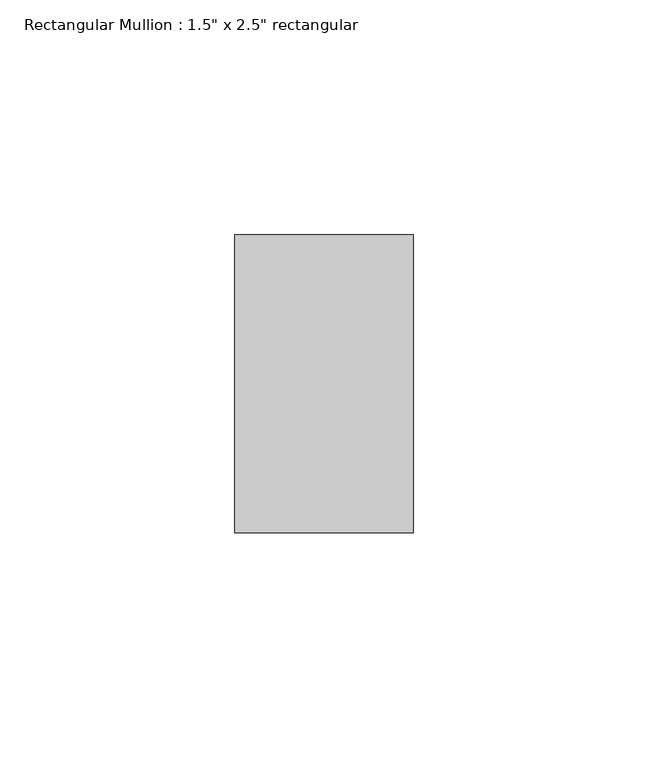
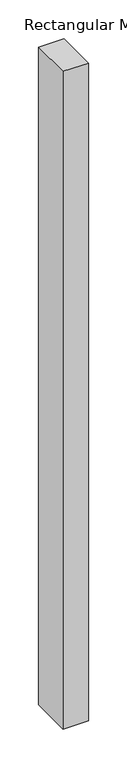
"""IFC4 building model written with IfcOpenShell, lengths in millimetres: member geometry."""

from ifc_helpers import new_model, si_unit, frame, origin, place, context, project, spatial, polyline, outline, extrude, source, transform, mapped, element, save


def member_c7dc9f29(model_context):
    return source(origin(), model_context, "Body", "SweptSolid", [
        extrude(outline(polyline([(0.0, 31.75), (0.0, -31.75), (-38.1, -31.75), (-38.1, 31.75), (0.0, 31.75)])), frame((0.0, 0.0, -1038.7193103), z_axis=(0.0, 0.0, 1.0), x_axis=(1.0, 0.0, 0.0)), (0.0, 0.0, 1.0), 1038.7193103),
    ])


if __name__ == "__main__":
    model = new_model("IFC4")
    model_context = context("Model", 3, world=origin())
    ifc_project = project(units=[si_unit("LENGTHUNIT", "METRE", prefix="MILLI")], contexts=[model_context])
    site = spatial("IfcSite", under=ifc_project)
    building = spatial("IfcBuilding", under=site)
    placement = place(None, origin())
    member_shape = member_c7dc9f29(model_context)
    element("IfcMember", 1, ObjectType="Rectangular Mullion : 1.5\" x 2.5\" rectangular", at=placement, inside=building, context=model_context, shape_type="MappedRepresentation", body=[
        mapped(member_shape, transform((0.0, 0.0, 0.0), x_axis=(1.0, 0.0, 0.0), y_axis=(0.0, 1.0, 0.0), z_axis=(0.0, 0.0, 1.0))),
    ])
    save(model, "model.ifc")
